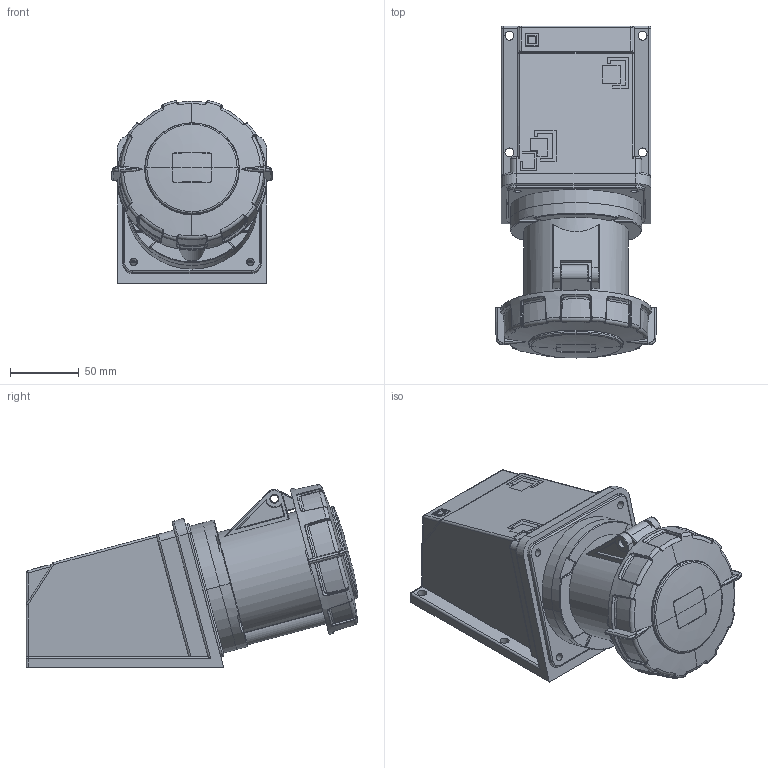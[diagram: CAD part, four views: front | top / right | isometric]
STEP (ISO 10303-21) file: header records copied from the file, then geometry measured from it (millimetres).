
FILE_DESCRIPTION(('FreeCAD Model'),'2;1');
FILE_NAME('Open CASCADE Shape Model','2026-02-04T11:36:21',(''),(''), 'Open CASCADE STEP processor 7.8','FreeCAD','Unknown');
FILE_SCHEMA(('AUTOMOTIVE_DESIGN { 1 0 10303 214 1 1 1 1 }'));
Length unit declared in the file: millimetre
Products named in the file (9): TL3S63653; Tampa parte 2; Tampa parte 1; Terminais; Estrutura corpo; Tomada; Base interna; Proteção terminais; Base externa
Assembly tree (8 placements, depth 2):
  TL3S63653
    Tampa parte 2
    Tampa parte 1
    Terminais
    Estrutura corpo
    Tomada
    Base interna
    Proteção terminais
    Base externa
Bounding box: 117.39 x 241.81 x 133.38 mm (x, y, z)
Volume: 929466.8 mm3; surface area: 284816.4 mm2
Topology: 8 solids, 8 shells, 1965 faces, 5637 edges, 3756 vertices
Faces by surface type: plane 1102, cylinder 393, bspline 267, torus 106, cone 79, sphere 18
Full cylindrical faces by diameter (mm): 5.5 x4, 6.5 x4, 18.5 x1, 40.5 x1, 74 x1, 78 x1, 89 x1, 99.8 x1
Entity records: 100761 total; most frequent: CARTESIAN_POINT 51722, ORIENTED_EDGE 11248, DIRECTION 8800, EDGE_CURVE 5624, VERTEX_POINT 3756, AXIS2_PLACEMENT_3D 2991, LINE 2818, VECTOR 2818
